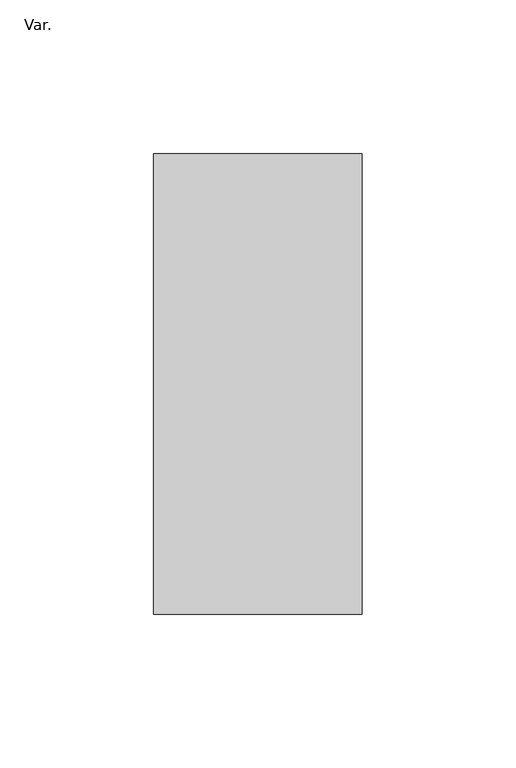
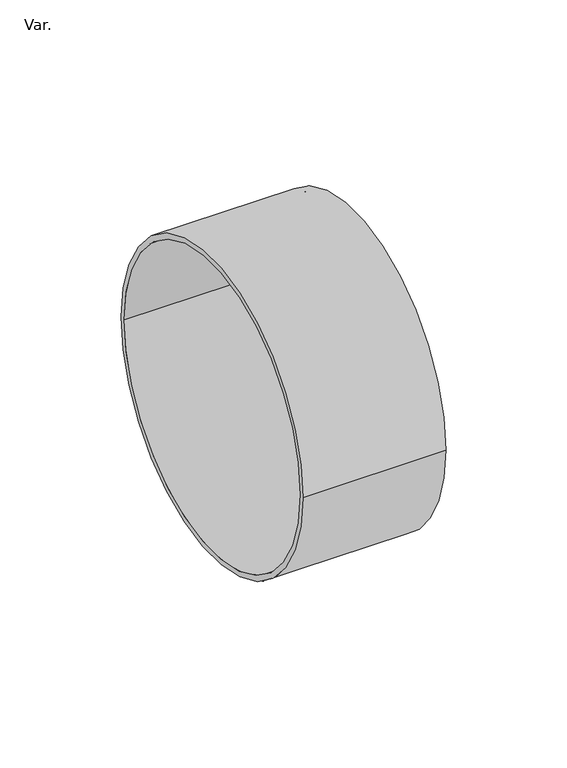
"""IFC4 building model written with IfcOpenShell, lengths in millimetres: pipe fitting geometry, AmancoWavin_ConexõesdeTubos_EsgotoZNãoUsarEsgotoCaixaSifProlongamento : Var.."""

from ifc_helpers import new_model, si_unit, point, frame, origin, origin_2d, place, context, project, spatial, circle_curve, trimmed, segment, composite_curve, outline, extrude, source, transform, mapped, element, save


def var_7cdf46ec(model_context):
    return source(origin(), model_context, "Body", "SweptSolid", [
        extrude(outline(composite_curve([segment(trimmed(circle_curve(origin_2d(), 75.0), [point((-75.0, 0.0))], [point((75.0, 0.0))], False, "CARTESIAN"), True, "CONTINUOUS"), segment(trimmed(circle_curve(origin_2d(), 75.0), [point((75.0, 0.0))], [point((-75.0, 0.0))], False, "CARTESIAN"), True, "CONTINUOUS")], self_intersect=False), holes=[composite_curve([segment(trimmed(circle_curve(origin_2d(), 72.4), [point((-72.4, 0.0))], [point((72.4, 0.0))], True, "CARTESIAN"), True, "CONTINUOUS"), segment(trimmed(circle_curve(origin_2d(), 72.4), [point((72.4, 0.0))], [point((-72.4, 0.0))], True, "CARTESIAN"), True, "CONTINUOUS")], self_intersect=False)]), frame((0.0, 0.0, 0.0), z_axis=(1.0, 0.0, 0.0), x_axis=(0.0, 1.0, 0.0)), (0.0, 0.0, 1.0), 68.0),
    ])


if __name__ == "__main__":
    model = new_model("IFC4")
    model_context = context("Model", 3, world=origin())
    ifc_project = project(units=[si_unit("LENGTHUNIT", "METRE", prefix="MILLI")], contexts=[model_context])
    site = spatial("IfcSite", under=ifc_project)
    building = spatial("IfcBuilding", under=site)
    placement = place(None, origin())
    var_shape = var_7cdf46ec(model_context)
    element("IfcPipeFitting", 1, ObjectType="AmancoWavin_ConexõesdeTubos_EsgotoZNãoUsarEsgotoCaixaSifProlongamento : Var.", at=placement, inside=building, context=model_context, shape_type="MappedRepresentation", body=[
        mapped(var_shape, transform((0.0, 0.0, 0.0), x_axis=(1.0, 0.0, 0.0), y_axis=(0.0, 1.0, 0.0), z_axis=(0.0, 0.0, 1.0))),
    ])
    save(model, "model.ifc")
